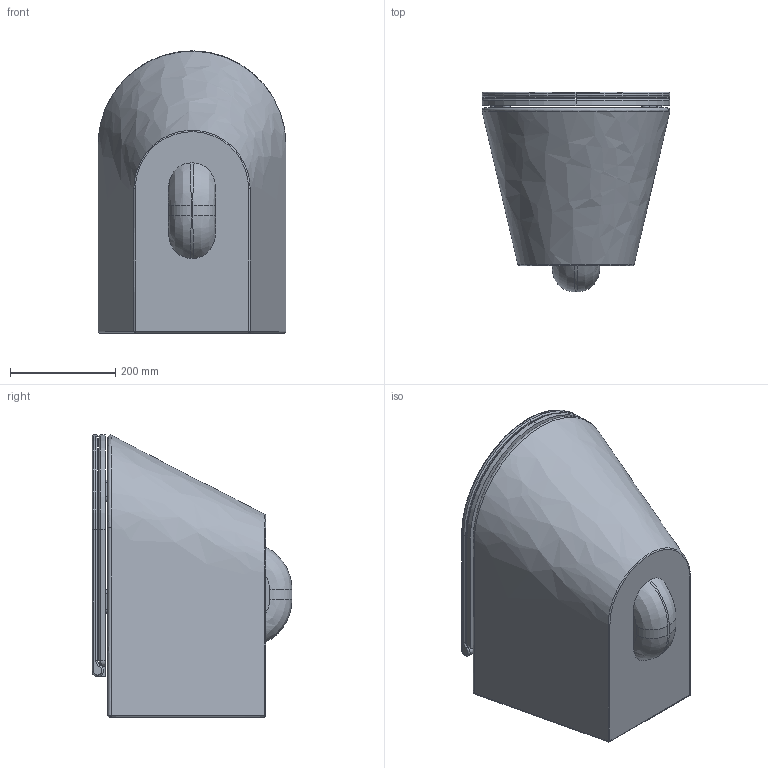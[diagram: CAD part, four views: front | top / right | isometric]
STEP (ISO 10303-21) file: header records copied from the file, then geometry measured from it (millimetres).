
FILE_DESCRIPTION (( 'STEP AP203' ), '1' );
FILE_NAME ('FMVKSPE00000.STEP', '2023-03-09T11:15:50', ( '' ), ( '' ), 'SwSTEP 2.0', 'SolidWorks 2023', '' );
FILE_SCHEMA (( 'CONFIG_CONTROL_DESIGN' ));
Length unit declared in the file: millimetre
Products named in the file (3): SEDILE FORMA; FMVKSPE00000; FORMA WC SOSP
Assembly tree (2 placements, depth 2):
  FMVKSPE00000
    FORMA WC SOSP
    SEDILE FORMA
Bounding box: 357.4 x 380 x 536.79 mm (x, y, z)
Volume: 27959348 mm3; surface area: 1437521.5 mm2
Topology: 2 solids, 2 shells, 173 faces, 422 edges, 258 vertices
Faces by surface type: cylinder 61, plane 49, torus 31, bspline 28, sphere 4
Full cylindrical faces by diameter (mm): 16 x2, 20 x3, 55 x1, 100 x1
Entity records: 12372 total; most frequent: CARTESIAN_POINT 8187, ORIENTED_EDGE 816, DIRECTION 815, EDGE_CURVE 408, AXIS2_PLACEMENT_3D 334, VERTEX_POINT 256, EDGE_LOOP 198, CIRCLE 184
